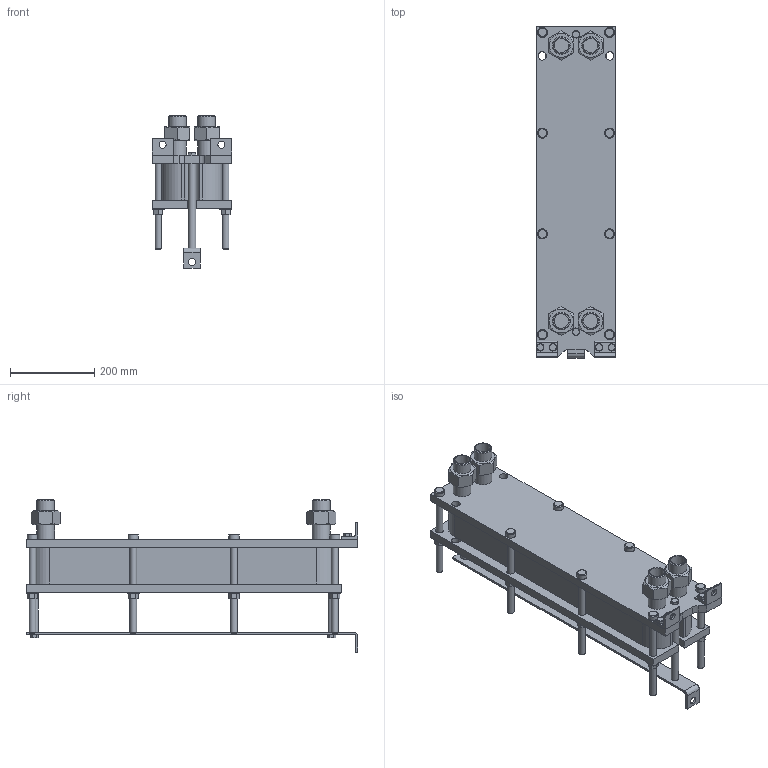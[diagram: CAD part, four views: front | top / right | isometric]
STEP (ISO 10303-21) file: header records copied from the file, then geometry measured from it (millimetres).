
FILE_DESCRIPTION(/* description */ (''),/* implementation_level */ '2;1');
FILE_NAME(/* name */ 'C:\Users\zhuro\Desktop\ENCO\TO\ЭН-008\ЭН-0,5-008-28-1.stp',/* time_stamp */ '2022-06-06T10:47:05+03:00',/* author */ ('zhuro'),/* organization */ (''),/* preprocessor_version */ 'ST-DEVELOPER v18.1',/* originating_system */ 'Autodesk Inventor 2022',/* authorisation */ '');
FILE_SCHEMA (('AUTOMOTIVE_DESIGN { 1 0 10303 214 3 1 1 }'));
Length unit declared in the file: millimetre
Products named in the file (1): ЭН-0,5-008-28-1
Bounding box: 190 x 790 x 363.4 mm (x, y, z)
Volume: 15515565.4 mm3; surface area: 1412489 mm2
Topology: 40 solids, 40 shells, 428 faces, 924 edges, 606 vertices
Faces by surface type: plane 273, cylinder 109, cone 40, torus 6
Full cylindrical faces by diameter (mm): 12 x6, 14 x2, 16 x20, 17 x8, 18 x19, 20 x5, 24 x8, 28 x8, 34.3 x8, 42.3 x8
Entity records: 15843 total; most frequent: CARTESIAN_POINT 5991, DIRECTION 1984, ORIENTED_EDGE 1848, EDGE_CURVE 924, AXIS2_PLACEMENT_3D 715, VERTEX_POINT 606, LINE 554, VECTOR 554
